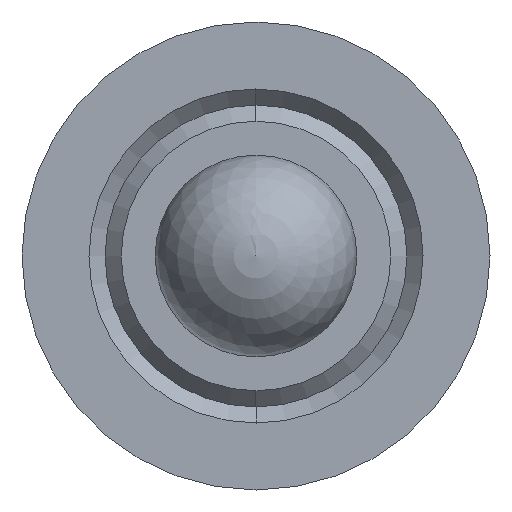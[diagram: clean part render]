
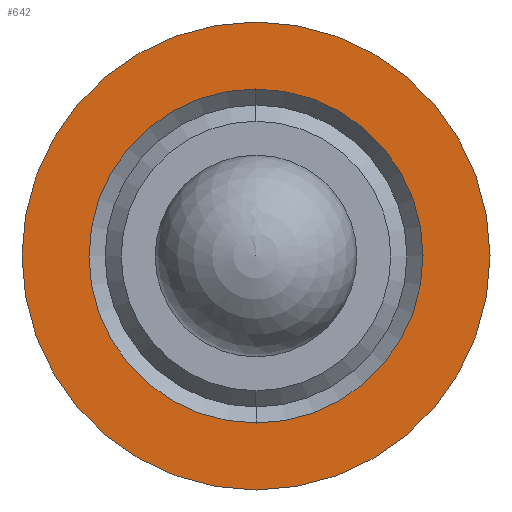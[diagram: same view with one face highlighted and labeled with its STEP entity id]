
A CAD part, left-side view. The second image highlights one B-rep face of the part: STEP entity #642.
In plain terms, the highlighted planar face has unit normal (-1, 0, 0).
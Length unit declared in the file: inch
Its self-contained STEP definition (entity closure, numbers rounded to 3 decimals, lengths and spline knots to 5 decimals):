
#76 = FACE_OUTER_BOUND ( 'NONE', #389, .T. ) ;
#147 = VERTEX_POINT ( 'NONE', #568 ) ;
#154 = CARTESIAN_POINT ( 'NONE',  ( 0.1322, 0.81926, 1.08089 ) ) ;
#213 = AXIS2_PLACEMENT_3D ( 'NONE', #765, #758, #757 ) ;
#389 = EDGE_LOOP ( 'NONE', ( #942, #922 ) ) ;
#417 = AXIS2_PLACEMENT_3D ( 'NONE', #1444, #1394, #1383 ) ;
#497 = VERTEX_POINT ( 'NONE', #154 ) ;
#556 = AXIS2_PLACEMENT_3D ( 'NONE', #1335, #1323, #1315 ) ;
#568 = CARTESIAN_POINT ( 'NONE',  ( 0.1322, 0.8193, 1.28789 ) ) ;
#642 = ADVANCED_FACE ( 'NONE', ( #967, #76 ), #870, .F. ) ;
#755 = AXIS2_PLACEMENT_3D ( 'NONE', #1243, #1300, #1287 ) ;
#757 = DIRECTION ( 'NONE',  ( 0., 0., 1. ) ) ;
#758 = DIRECTION ( 'NONE',  ( -1., 0., 0. ) ) ;
#765 = CARTESIAN_POINT ( 'NONE',  ( 0.1322, 0.81928, 1.18439 ) ) ;
#781 = EDGE_CURVE ( 'NONE', #1398, #800, #1455, .T. ) ;
#800 = VERTEX_POINT ( 'NONE', #1428 ) ;
#810 = CIRCLE ( 'NONE', #556, 0.1035 ) ;
#819 = EDGE_CURVE ( 'NONE', #497, #147, #810, .T. ) ;
#870 = PLANE ( 'NONE',  #755 ) ;
#873 = AXIS2_PLACEMENT_3D ( 'NONE', #1052, #1039, #1034 ) ;
#876 = CIRCLE ( 'NONE', #213, 0.145 ) ;
#893 = CARTESIAN_POINT ( 'NONE',  ( 0.1322, 0.81925, 1.03939 ) ) ;
#922 = ORIENTED_EDGE ( 'NONE', *, *, #781, .T. ) ;
#942 = ORIENTED_EDGE ( 'NONE', *, *, #1436, .T. ) ;
#967 = FACE_BOUND ( 'NONE', #1284, .T. ) ;
#1034 = DIRECTION ( 'NONE',  ( 0., 0., -1. ) ) ;
#1039 = DIRECTION ( 'NONE',  ( 1., 0., 0. ) ) ;
#1052 = CARTESIAN_POINT ( 'NONE',  ( 0.1322, 0.81928, 1.18439 ) ) ;
#1150 = ORIENTED_EDGE ( 'NONE', *, *, #1345, .T. ) ;
#1243 = CARTESIAN_POINT ( 'NONE',  ( 0.1322, 0.81928, 1.18439 ) ) ;
#1284 = EDGE_LOOP ( 'NONE', ( #1150, #1441 ) ) ;
#1287 = DIRECTION ( 'NONE',  ( 0., 0., -1. ) ) ;
#1300 = DIRECTION ( 'NONE',  ( 1., 0., 0. ) ) ;
#1315 = DIRECTION ( 'NONE',  ( 0., 0., -1. ) ) ;
#1323 = DIRECTION ( 'NONE',  ( 1., 0., 0. ) ) ;
#1335 = CARTESIAN_POINT ( 'NONE',  ( 0.1322, 0.81928, 1.18439 ) ) ;
#1345 = EDGE_CURVE ( 'NONE', #147, #497, #1354, .T. ) ;
#1354 = CIRCLE ( 'NONE', #873, 0.1035 ) ;
#1383 = DIRECTION ( 'NONE',  ( 0., 0., 1. ) ) ;
#1394 = DIRECTION ( 'NONE',  ( -1., 0., 0. ) ) ;
#1398 = VERTEX_POINT ( 'NONE', #893 ) ;
#1428 = CARTESIAN_POINT ( 'NONE',  ( 0.1322, 0.8193, 1.32939 ) ) ;
#1436 = EDGE_CURVE ( 'NONE', #800, #1398, #876, .T. ) ;
#1441 = ORIENTED_EDGE ( 'NONE', *, *, #819, .T. ) ;
#1444 = CARTESIAN_POINT ( 'NONE',  ( 0.1322, 0.81928, 1.18439 ) ) ;
#1455 = CIRCLE ( 'NONE', #417, 0.145 ) ;
